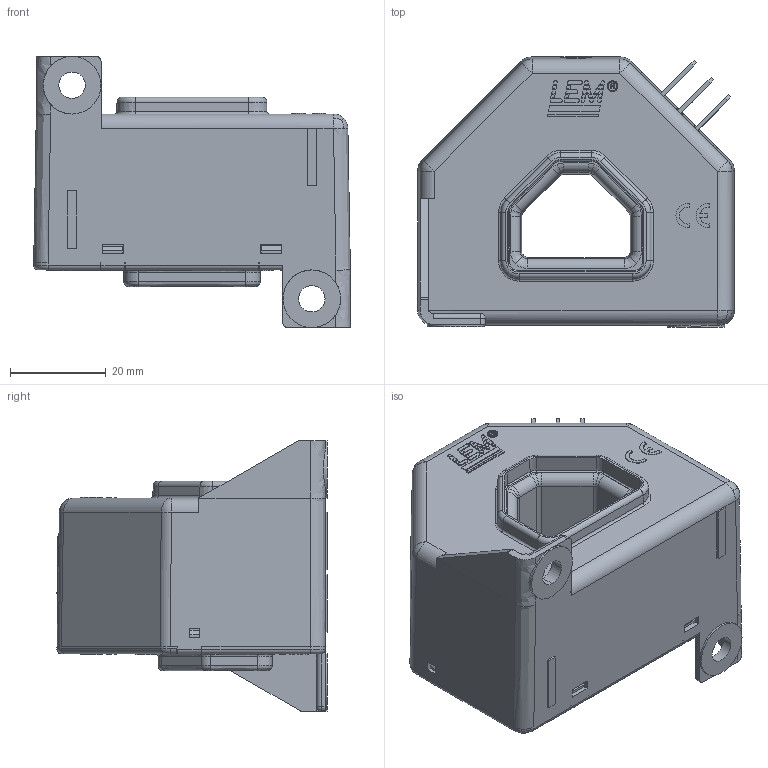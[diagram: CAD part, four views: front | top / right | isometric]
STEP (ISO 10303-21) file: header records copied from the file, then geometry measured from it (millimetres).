
FILE_DESCRIPTION(('Creo Elements/Direct Modeling STEP Export'),'2;1');
FILE_NAME('LA 205-S SP6 Black box.stp','2013-12-11T16:40:42',(''),(''),'Creo Elements/Direct Modeling STEP processor for AP214 (Solid Model)','Creo Elements/Direct Modeling 17.0C 05-Feb-2011 (C) Parametric Technology GmbH','');
FILE_SCHEMA(('AUTOMOTIVE_DESIGN { 1 0 10303 214 1 1 1 1 }'));
Length unit declared in the file: millimetre
Products named in the file (1): SP1-SP6_blackbox
Bounding box: 66.03 x 56.31 x 56.5 mm (x, y, z)
Volume: 93350.8 mm3; surface area: 18829.6 mm2
Topology: 1 solids, 1 shells, 1073 faces, 2763 edges, 1784 vertices
Faces by surface type: plane 805, cylinder 180, bspline 33, torus 23, cone 14, extrusion 12, sphere 6
Entity records: 36548 total; most frequent: CARTESIAN_POINT 10652, ORIENTED_EDGE 5514, DIRECTION 4899, EDGE_CURVE 2757, VECTOR 2227, LINE 2215, VERTEX_POINT 1784, AXIS2_PLACEMENT_3D 1336
